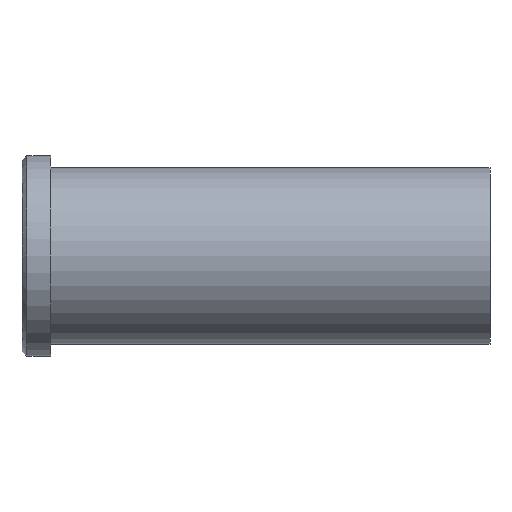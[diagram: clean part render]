
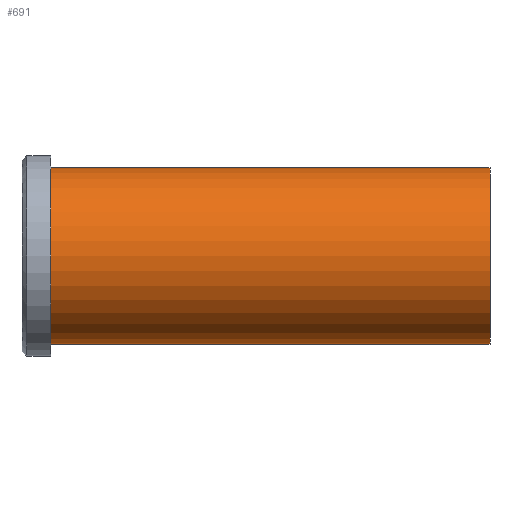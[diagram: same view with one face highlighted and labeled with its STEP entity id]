
A CAD part, front view. The second image highlights one B-rep face of the part: STEP entity #691.
In plain terms, the highlighted cylindrical face has radius 37 mm (diameter 74 mm), a partial arc.
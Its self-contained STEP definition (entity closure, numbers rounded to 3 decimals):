
#501=CARTESIAN_POINT('Vertex',(0.,0.,-37.)) ;
#506=CARTESIAN_POINT('Axis2P3D Location',(0.,0.,0.)) ;
#510=CARTESIAN_POINT('Vertex',(0.,-37.,0.)) ;
#513=CARTESIAN_POINT('Axis2P3D Location',(0.,0.,0.)) ;
#517=CARTESIAN_POINT('Vertex',(0.,0.,37.)) ;
#631=CARTESIAN_POINT('Line Origine',(184.,0.,37.)) ;
#635=CARTESIAN_POINT('Vertex',(184.,0.,37.)) ;
#649=CARTESIAN_POINT('Vertex',(184.,0.,-37.)) ;
#652=CARTESIAN_POINT('Line Origine',(184.,0.,-37.)) ;
#666=CARTESIAN_POINT('Axis2P3D Location',(184.,0.,0.)) ;
#671=CARTESIAN_POINT('Axis2P3D Location',(184.,0.,0.)) ;
#675=CARTESIAN_POINT('Vertex',(184.,-37.,0.)) ;
#678=CARTESIAN_POINT('Axis2P3D Location',(184.,0.,0.)) ;
#507=DIRECTION('Axis2P3D Direction',(1.,0.,-0.)) ;
#514=DIRECTION('Axis2P3D Direction',(1.,0.,-0.)) ;
#632=DIRECTION('Vector Direction',(-1.,0.,0.)) ;
#653=DIRECTION('Vector Direction',(-1.,0.,0.)) ;
#667=DIRECTION('Axis2P3D Direction',(-1.,-0.,-0.)) ;
#668=DIRECTION('Axis2P3D XDirection',(0.,0.,-1.)) ;
#672=DIRECTION('Axis2P3D Direction',(-1.,-0.,-0.)) ;
#679=DIRECTION('Axis2P3D Direction',(-1.,-0.,-0.)) ;
#508=AXIS2_PLACEMENT_3D('Circle Axis2P3D',#506,#507,$) ;
#515=AXIS2_PLACEMENT_3D('Circle Axis2P3D',#513,#514,$) ;
#669=AXIS2_PLACEMENT_3D('Cylinder Axis2P3D',#666,#667,#668) ;
#673=AXIS2_PLACEMENT_3D('Circle Axis2P3D',#671,#672,$) ;
#680=AXIS2_PLACEMENT_3D('Circle Axis2P3D',#678,#679,$) ;
#684=ORIENTED_EDGE('',*,*,#656,.T.) ;
#685=ORIENTED_EDGE('',*,*,#677,.F.) ;
#686=ORIENTED_EDGE('',*,*,#682,.F.) ;
#687=ORIENTED_EDGE('',*,*,#637,.T.) ;
#688=ORIENTED_EDGE('',*,*,#519,.T.) ;
#689=ORIENTED_EDGE('',*,*,#512,.T.) ;
#633=VECTOR('Line Direction',#632,1.) ;
#654=VECTOR('Line Direction',#653,1.) ;
#691=ADVANCED_FACE('353-60x196',(#690),#670,.T.) ;
#509=CIRCLE('generated circle',#508,37.) ;
#516=CIRCLE('generated circle',#515,37.) ;
#674=CIRCLE('generated circle',#673,37.) ;
#681=CIRCLE('generated circle',#680,37.) ;
#670=CYLINDRICAL_SURFACE('generated cylinder',#669,37.) ;
#512=EDGE_CURVE('',#511,#502,#509,.T.) ;
#519=EDGE_CURVE('',#518,#511,#516,.T.) ;
#637=EDGE_CURVE('',#636,#518,#634,.T.) ;
#656=EDGE_CURVE('',#502,#650,#655,.F.) ;
#677=EDGE_CURVE('',#676,#650,#674,.F.) ;
#682=EDGE_CURVE('',#636,#676,#681,.F.) ;
#683=EDGE_LOOP('',(#684,#685,#686,#687,#688,#689)) ;
#690=FACE_OUTER_BOUND('',#683,.T.) ;
#634=LINE('Line',#631,#633) ;
#655=LINE('Line',#652,#654) ;
#502=VERTEX_POINT('',#501) ;
#511=VERTEX_POINT('',#510) ;
#518=VERTEX_POINT('',#517) ;
#636=VERTEX_POINT('',#635) ;
#650=VERTEX_POINT('',#649) ;
#676=VERTEX_POINT('',#675) ;
